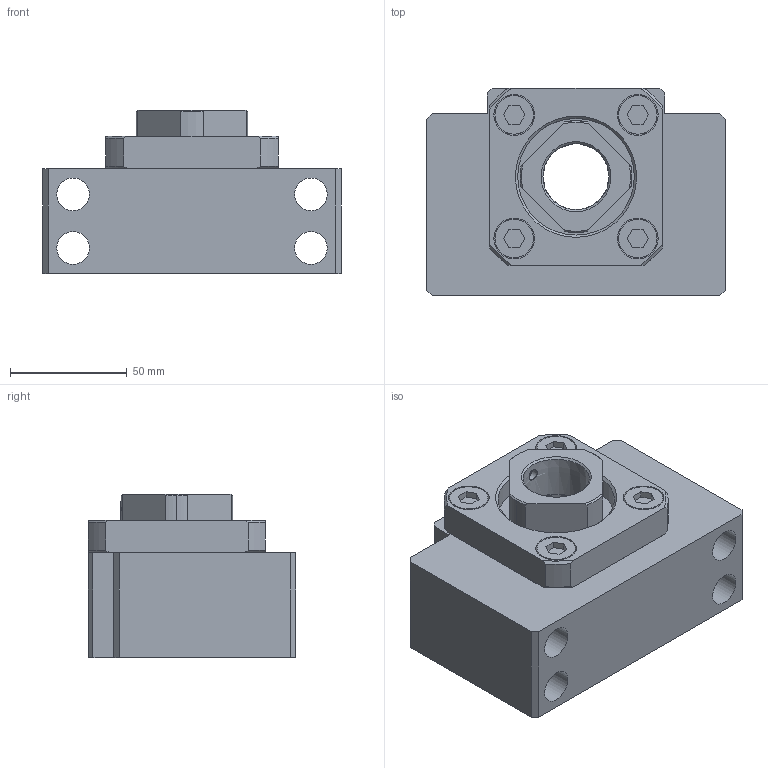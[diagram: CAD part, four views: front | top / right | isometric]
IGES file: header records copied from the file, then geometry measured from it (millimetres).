
Start section: Data from Parasolid IGES Translator 26.0.171, Copyright(c) 2006 Siemens PLM Software. All Rights Reserved.
Global section: file name: BK30Yes.igs; native system: By Siemens PLM Incorporated; preprocessor: XPlus GENERIC/IGES 26.0.171; author: Noname; organization: Noname; date: 20250610.082053; units: millimetre
Bounding box: 128 x 89 x 70 mm (x, y, z)
Surface area: 92450.1 mm2 (no closed solid volume)
Topology: 0 solids, 0 shells, 156 faces, 728 edges, 692 vertices
Faces by surface type: extrusion 94, revolution 62
